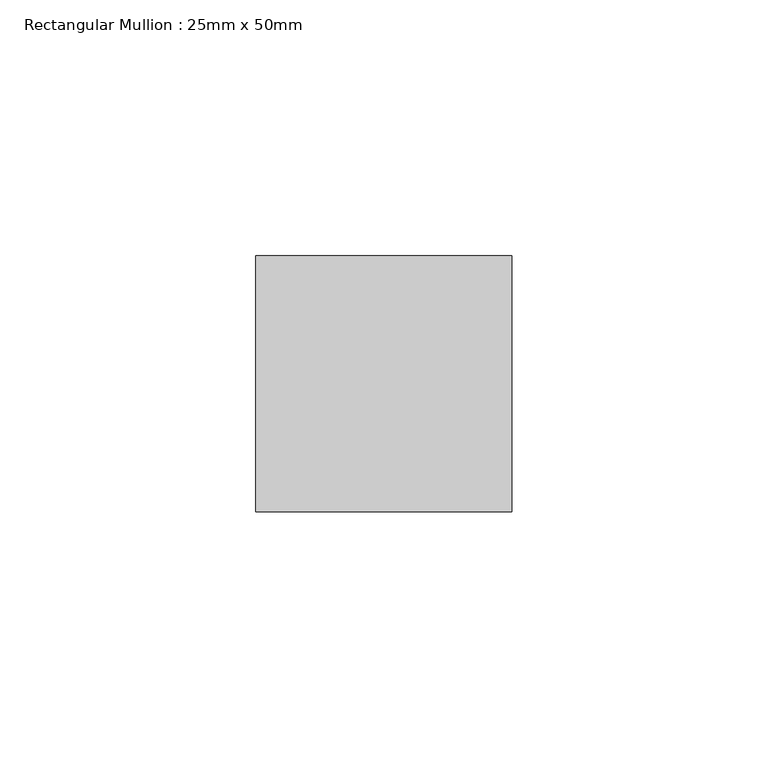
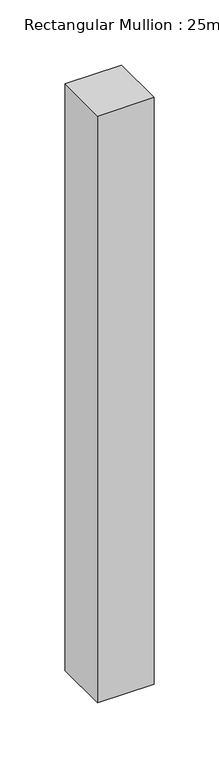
"""IFC4 building model written with IfcOpenShell, lengths in millimetres: member geometry, Rectangular Mullion : 25mm x 50mm."""

import ifcopenshell
import ifcopenshell.guid

model = None  # the IFC model being written
_history = None  # IfcOwnerHistory: only IFC2X3 demands one
_inside = {}  # id of a spatial element -> (the spatial element, [elements in it])
_under = {}  # id of a project, library or spatial element -> (it, [spatial elements below it])
_declared = {}  # id of a project -> (the project, [libraries it declares])
_typed = {}  # id of a type object -> (the type object, [elements of that type])
_made_of = {}  # id of a material, layer set ... -> (it, [elements and type objects made of it])


def new_model(schema):
    """Start an empty IFC model of exactly this schema.

    Asked for "IFC4X3", IfcOpenShell would pick the latest addendum, in which some entities
    have other attributes; the version numbers below select the first issue.
    IFC2X3 requires an IfcOwnerHistory on every rooted entity: one is made here for all.
    """
    global model, _history
    if schema == "IFC4X3":
        model = ifcopenshell.file(schema_version=(4, 3, 0, 0))
    else:
        model = ifcopenshell.file(schema=schema)
    _inside.clear()
    _under.clear()
    _declared.clear()
    _typed.clear()
    _made_of.clear()
    _history = None
    if model.schema == "IFC2X3":
        org = make("IfcOrganization", Name="unknown")
        user = make(
            "IfcPersonAndOrganization",
            ThePerson=make("IfcPerson", FamilyName="unknown"),
            TheOrganization=org,
        )
        app = make(
            "IfcApplication",
            ApplicationDeveloper=org,
            Version="unknown",
            ApplicationFullName="unknown",
            ApplicationIdentifier="unknown",
        )
        _history = make(
            "IfcOwnerHistory",
            OwningUser=user,
            OwningApplication=app,
            ChangeAction="ADDED",
            CreationDate=0,
        )
    return model


def make(cls, **values):
    """One entity of the class cls with the attributes given. An attribute that is None is left unset."""
    return model.create_entity(
        cls, **{name: value for name, value in values.items() if value is not None}
    )


def rooted(cls, **values):
    """An entity with a GlobalId (a new one), such as an element, a storey or a relation."""
    return make(cls, GlobalId=ifcopenshell.guid.new(), OwnerHistory=_history, **values)


def si_unit(unit_type, name, prefix=None):
    """IfcSIUnit, for example si_unit("LENGTHUNIT", "METRE", prefix="MILLI")."""
    return make("IfcSIUnit", UnitType=unit_type, Prefix=prefix, Name=name)


def assignment(units):
    """IfcUnitAssignment: the units of a project."""
    return None if units is None else make("IfcUnitAssignment", Units=units)


def point(xyz):
    """IfcCartesianPoint."""
    return None if xyz is None else make("IfcCartesianPoint", Coordinates=xyz)


def direction(xyz):
    """IfcDirection."""
    return None if xyz is None else make("IfcDirection", DirectionRatios=xyz)


def frame(location, z_axis=None, x_axis=None):
    """IfcAxis2Placement3D, a coordinate frame: its origin and axes. An axis left out is left unset."""
    return make(
        "IfcAxis2Placement3D",
        Location=point(location),
        Axis=direction(z_axis),
        RefDirection=direction(x_axis),
    )


def origin():
    """The frame at (0, 0, 0) with its axes left unset."""
    return frame((0.0, 0.0, 0.0))


def place(relative_to, where):
    """IfcLocalPlacement: puts the frame where relative to a parent placement (None: the world)."""
    return make(
        "IfcLocalPlacement", PlacementRelTo=relative_to, RelativePlacement=where
    )


def context(
    kind, dimensions, precision=None, world=None, true_north=None, identifier=None
):
    """IfcGeometricRepresentationContext, for example the 3D "Model" context."""
    return make(
        "IfcGeometricRepresentationContext",
        ContextIdentifier=identifier,
        ContextType=kind,
        CoordinateSpaceDimension=dimensions,
        Precision=precision,
        WorldCoordinateSystem=world,
        TrueNorth=true_north,
    )


def project(units=None, contexts=None):
    """IfcProject with its units and contexts."""
    return rooted(
        "IfcProject",
        Name="project",
        RepresentationContexts=contexts,
        UnitsInContext=assignment(units),
    )


def spatial(cls, under=None, at=None, **own):
    """A site, building, storey or space (cls), placed at a placement, below another one or the project."""
    s = rooted(cls, ObjectPlacement=at, **own)
    if under is not None:
        _under.setdefault(under.id(), (under, []))[1].append(s)
    return s


def polyline(points):
    """IfcPolyline through the points."""
    return make("IfcPolyline", Points=[point(p) for p in points])


def outline(outer, holes=None, kind="AREA"):
    """IfcArbitraryClosedProfileDef: a profile drawn as a closed curve; with holes, ...WithVoids."""
    if holes is None:
        return make("IfcArbitraryClosedProfileDef", ProfileType=kind, OuterCurve=outer)
    return make(
        "IfcArbitraryProfileDefWithVoids",
        ProfileType=kind,
        OuterCurve=outer,
        InnerCurves=holes,
    )


def extrude(swept, where, along, depth):
    """IfcExtrudedAreaSolid: the profile swept, set in the frame where, extruded along a direction by depth."""
    return make(
        "IfcExtrudedAreaSolid",
        SweptArea=swept,
        Position=where,
        ExtrudedDirection=direction(along),
        Depth=depth,
    )


def shape(context_of_items, identifier, shape_type, items):
    """IfcShapeRepresentation: the items that make up one representation, for example the "Body"."""
    return make(
        "IfcShapeRepresentation",
        ContextOfItems=context_of_items,
        RepresentationIdentifier=identifier,
        RepresentationType=shape_type,
        Items=items,
    )


def source(mapping_origin, context_of_items, identifier, shape_type, items):
    """IfcRepresentationMap: a shape defined once, which mapped items show again and again."""
    return make(
        "IfcRepresentationMap",
        MappingOrigin=mapping_origin,
        MappedRepresentation=shape(context_of_items, identifier, shape_type, items),
    )


def transform(
    local_origin,
    x_axis=None,
    y_axis=None,
    z_axis=None,
    scale=None,
    scale2=None,
    scale3=None,
    uniform=True,
):
    """IfcCartesianTransformationOperator3D, or its non-uniform kind. x_axis, y_axis, z_axis: its Axis1, 2, 3."""
    if uniform:
        return make(
            "IfcCartesianTransformationOperator3D",
            Axis1=direction(x_axis),
            Axis2=direction(y_axis),
            LocalOrigin=point(local_origin),
            Scale=scale,
            Axis3=direction(z_axis),
        )
    return make(
        "IfcCartesianTransformationOperator3DnonUniform",
        Axis1=direction(x_axis),
        Axis2=direction(y_axis),
        LocalOrigin=point(local_origin),
        Scale=scale,
        Axis3=direction(z_axis),
        Scale2=scale2,
        Scale3=scale3,
    )


def mapped(mapping_source, mapping_target):
    """IfcMappedItem: shows the shape of a source again, moved by a transform."""
    return make(
        "IfcMappedItem", MappingSource=mapping_source, MappingTarget=mapping_target
    )


def made_of(thing, what):
    """Note that an element or type object is made of a material, layer set ...; save() writes the relation."""
    if what is not None:
        _made_of.setdefault(what.id(), (what, []))[1].append(thing)
    return thing


def element(
    cls,
    number,
    at=None,
    inside=None,
    cuts=None,
    type_object=None,
    material=None,
    context=None,
    identifier="Body",
    shape_type=None,
    held_by="IfcProductDefinitionShape",
    body=None,
    shapes=None,
    **own,
):
    """One element of the class cls, such as IfcWall. Its Tag is "e" and its number.

    at: its placement. inside: the storey or other place that contains it. cuts: it is an
    opening in that element (IfcRelVoidsElement). A single representation is given by context,
    identifier, shape_type and body (its items); several are given by shapes. held_by: the class
    of the entity that holds the representations. save() writes the other relations.
    """
    e = rooted(cls, Tag="e%d" % number, ObjectPlacement=at, **own)
    if body is not None:
        shapes = [shape(context, identifier, shape_type, body)]
    if shapes is not None:
        e.Representation = make(held_by, Representations=shapes)
    if inside is not None:
        _inside.setdefault(inside.id(), (inside, []))[1].append(e)
    if cuts is not None:
        rooted(
            "IfcRelVoidsElement", RelatingBuildingElement=cuts, RelatedOpeningElement=e
        )
    if type_object is not None:
        _typed.setdefault(type_object.id(), (type_object, []))[1].append(e)
    return made_of(e, material)


def aggregate(whole, parts):
    """IfcRelAggregates: a whole, such as a stair, and the parts it consists of."""
    return rooted("IfcRelAggregates", RelatingObject=whole, RelatedObjects=parts)


def save(model, path):
    """Write the relations noted so far, then the file.

    IfcRelAggregates (storeys below a building ...), IfcRelContainedInSpatialStructure (elements
    in a storey), IfcRelDefinesByType, IfcRelAssociatesMaterial and IfcRelDeclares: one each for
    every whole, place, type object, material and project.
    """
    for whole, parts in _under.values():
        aggregate(whole, parts)
    for where, things in _inside.values():
        rooted(
            "IfcRelContainedInSpatialStructure",
            RelatedElements=things,
            RelatingStructure=where,
        )
    for kind, things in _typed.values():
        rooted("IfcRelDefinesByType", RelatedObjects=things, RelatingType=kind)
    for what, things in _made_of.values():
        rooted("IfcRelAssociatesMaterial", RelatedObjects=things, RelatingMaterial=what)
    for by, libraries in _declared.values():
        rooted("IfcRelDeclares", RelatingContext=by, RelatedDefinitions=libraries)
    model.write(path)


def rectangular_mullion_25mm_x_50mm_07d3c152(model_context):
    return source(origin(), model_context, "Body", "SweptSolid", [
        extrude(outline(polyline([(25.0, 25.0), (25.0, -25.0), (-25.0, -25.0), (-25.0, 25.0), (25.0, 25.0)])), frame((0.0, 0.0, -550.0), z_axis=(0.0, 0.0, 1.0), x_axis=(1.0, 0.0, 0.0)), (0.0, 0.0, 1.0), 550.0),
    ])


if __name__ == "__main__":
    model = new_model("IFC4")
    model_context = context("Model", 3, world=origin())
    ifc_project = project(units=[si_unit("LENGTHUNIT", "METRE", prefix="MILLI")], contexts=[model_context])
    site = spatial("IfcSite", under=ifc_project)
    building = spatial("IfcBuilding", under=site)
    placement = place(None, origin())
    rectangular_mullion_25mm_x_50mm_shape = rectangular_mullion_25mm_x_50mm_07d3c152(model_context)
    element("IfcMember", 1, ObjectType="Rectangular Mullion : 25mm x 50mm", at=placement, inside=building, context=model_context, shape_type="MappedRepresentation", body=[
        mapped(rectangular_mullion_25mm_x_50mm_shape, transform((0.0, 0.0, 0.0), x_axis=(1.0, 0.0, 0.0), y_axis=(0.0, 1.0, 0.0), z_axis=(0.0, 0.0, 1.0))),
    ])
    save(model, "model.ifc")
